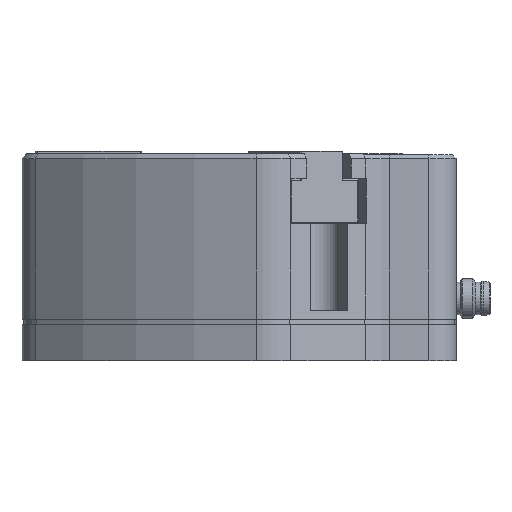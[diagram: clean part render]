
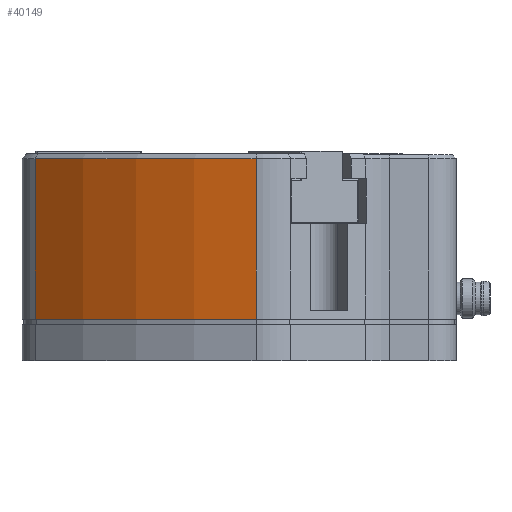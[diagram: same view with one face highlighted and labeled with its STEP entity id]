
A CAD part, left-side view. The second image highlights one B-rep face of the part: STEP entity #40149.
In plain terms, the highlighted cylindrical face has radius 90 mm (diameter 180 mm), a partial arc.
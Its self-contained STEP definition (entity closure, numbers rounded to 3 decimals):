
#39379=CARTESIAN_POINT('',(-40.933,-5.884,8.35));
#39380=VERTEX_POINT('',#39379);
#39388=CARTESIAN_POINT('',(-15.371,38.391,8.35));
#39389=VERTEX_POINT('',#39388);
#39390=CARTESIAN_POINT('',(46.58,-26.893,8.35));
#39391=DIRECTION('',(0.0,0.0,1.0));
#39392=DIRECTION('',(0.656,-0.754,0.0));
#39393=AXIS2_PLACEMENT_3D('',#39390,#39391,#39392);
#39394=CIRCLE('',#39393,90.0);
#39395=EDGE_CURVE('',#39389,#39380,#39394,.T.);
#40056=CARTESIAN_POINT('',(-15.371,38.391,40.5));
#40057=VERTEX_POINT('',#40056);
#40058=CARTESIAN_POINT('',(-15.371,38.391,8.35));
#40059=DIRECTION('',(0.0,0.0,1.0));
#40060=VECTOR('',#40059,32.15);
#40061=LINE('',#40058,#40060);
#40062=EDGE_CURVE('',#39389,#40057,#40061,.T.);
#40125=CARTESIAN_POINT('',(46.58,-26.893,0.0));
#40126=DIRECTION('',(0.0,0.0,1.0));
#40127=DIRECTION('',(0.656,-0.754,0.0));
#40128=AXIS2_PLACEMENT_3D('',#40125,#40126,#40127);
#40129=CYLINDRICAL_SURFACE('',#40128,90.0);
#40130=ORIENTED_EDGE('',*,*,#39395,.T.);
#40131=CARTESIAN_POINT('',(-40.933,-5.884,40.5));
#40132=VERTEX_POINT('',#40131);
#40133=CARTESIAN_POINT('',(-40.933,-5.884,40.5));
#40134=DIRECTION('',(0.0,0.0,-1.0));
#40135=VECTOR('',#40134,32.15);
#40136=LINE('',#40133,#40135);
#40137=EDGE_CURVE('',#40132,#39380,#40136,.T.);
#40138=ORIENTED_EDGE('',*,*,#40137,.F.);
#40139=CARTESIAN_POINT('',(46.58,-26.893,40.5));
#40140=DIRECTION('',(0.0,0.0,1.0));
#40141=DIRECTION('',(-0.656,0.754,0.0));
#40142=AXIS2_PLACEMENT_3D('',#40139,#40140,#40141);
#40143=CIRCLE('',#40142,90.0);
#40144=EDGE_CURVE('',#40057,#40132,#40143,.T.);
#40145=ORIENTED_EDGE('',*,*,#40144,.F.);
#40146=ORIENTED_EDGE('',*,*,#40062,.F.);
#40147=EDGE_LOOP('',(#40130,#40138,#40145,#40146));
#40148=FACE_OUTER_BOUND('',#40147,.T.);
#40149=ADVANCED_FACE('',(#40148),#40129,.T.);
